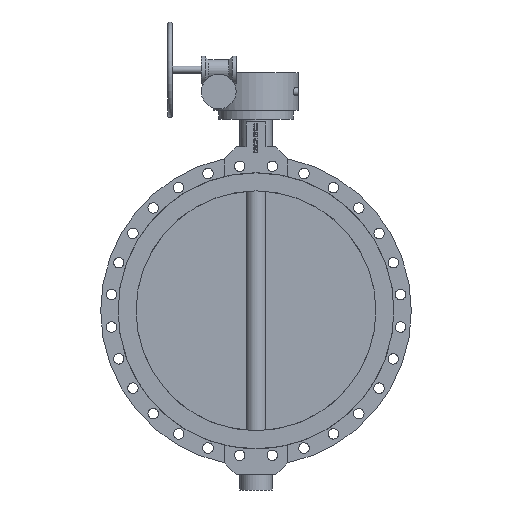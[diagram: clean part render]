
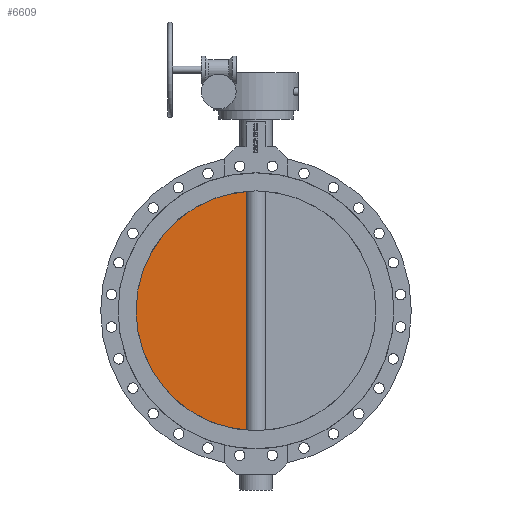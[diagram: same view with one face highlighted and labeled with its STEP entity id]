
A CAD part, left-side view. The second image highlights one B-rep face of the part: STEP entity #6609.
In plain terms, the highlighted planar face has unit normal (-1, 0, 0).
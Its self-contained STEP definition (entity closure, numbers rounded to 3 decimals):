
#6609=ADVANCED_FACE('',(#12207),#12209,.F.);
#12207=FACE_BOUND('',#12208,.T.);
#12208=EDGE_LOOP('',(#16170,#16171,#16172));
#12209=PLANE('',#12210);
#12210=AXIS2_PLACEMENT_3D('',#12211,#12212,#12213);
#12211=CARTESIAN_POINT('',(-15.,0.,0.));
#12212=DIRECTION('',(1.,0.,0.));
#12213=DIRECTION('',(0.,1.,0.));
#16170=ORIENTED_EDGE('',*,*,#18385,.T.);
#16171=ORIENTED_EDGE('',*,*,#18017,.T.);
#16172=ORIENTED_EDGE('',*,*,#18021,.T.);
#18017=EDGE_CURVE('',#21228,#21229,#21230,.F.);
#18021=EDGE_CURVE('',#21229,#21235,#21237,.F.);
#18385=EDGE_CURVE('',#21235,#21228,#21788,.F.);
#21228=VERTEX_POINT('',#30545);
#21229=VERTEX_POINT('',#30546);
#21230=CIRCLE('',#30547,482.5);
#21235=VERTEX_POINT('',#30605);
#21237=CIRCLE('',#30654,482.5);
#21788=LINE('',#33205,#33206);
#30545=CARTESIAN_POINT('',(-15.,37.081,481.073));
#30546=CARTESIAN_POINT('',(-15.,482.5,0.));
#30547=AXIS2_PLACEMENT_3D('',#30548,#30549,#30550);
#30548=CARTESIAN_POINT('',(-15.,0.,0.));
#30549=DIRECTION('',(1.,0.,0.));
#30550=DIRECTION('',(0.,1.,0.));
#30605=CARTESIAN_POINT('',(-15.,37.081,-481.073));
#30654=AXIS2_PLACEMENT_3D('',#30655,#30656,#30657);
#30655=CARTESIAN_POINT('',(-15.,0.,0.));
#30656=DIRECTION('',(1.,0.,0.));
#30657=DIRECTION('',(0.,0.077,-0.997));
#33205=CARTESIAN_POINT('',(-15.,37.081,481.073));
#33206=VECTOR('',#33207,1.);
#33207=DIRECTION('',(0.,0.,-1.));
